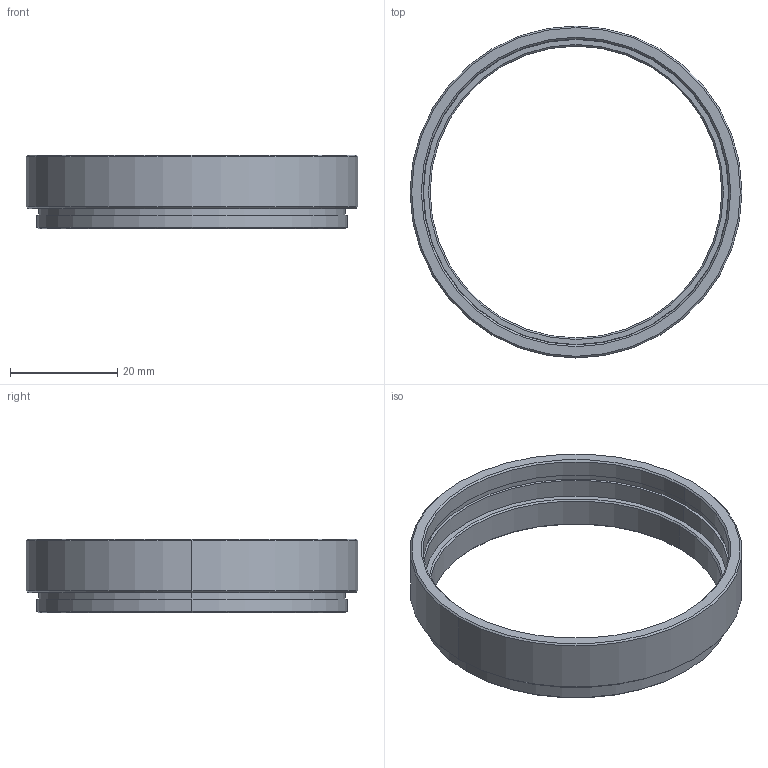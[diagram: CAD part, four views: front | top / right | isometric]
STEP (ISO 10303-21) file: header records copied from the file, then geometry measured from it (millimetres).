
FILE_DESCRIPTION (( 'STEP AP203' ), '1' );
FILE_NAME ('3d_exr-m58-l10_a001.step', '2019-03-18T01:06:30', ( '' ), ( '' ), 'SwSTEP 2.0', 'SolidWorks 2014', '' );
FILE_SCHEMA (( 'CONFIG_CONTROL_DESIGN' ));
Length unit declared in the file: millimetre
Products named in the file (1): 3d_exr-m58-l10_a001
Bounding box: 62 x 62 x 13.8 mm (x, y, z)
Volume: 5982.5 mm3; surface area: 6538.4 mm2
Topology: 1 solids, 1 shells, 33 faces, 66 edges, 40 vertices
Faces by surface type: cylinder 14, cone 12, plane 7
Entity records: 945 total; most frequent: DIRECTION 174, CARTESIAN_POINT 140, ORIENTED_EDGE 132, AXIS2_PLACEMENT_3D 74, EDGE_CURVE 66, VERTEX_POINT 40, EDGE_LOOP 40, CIRCLE 40
